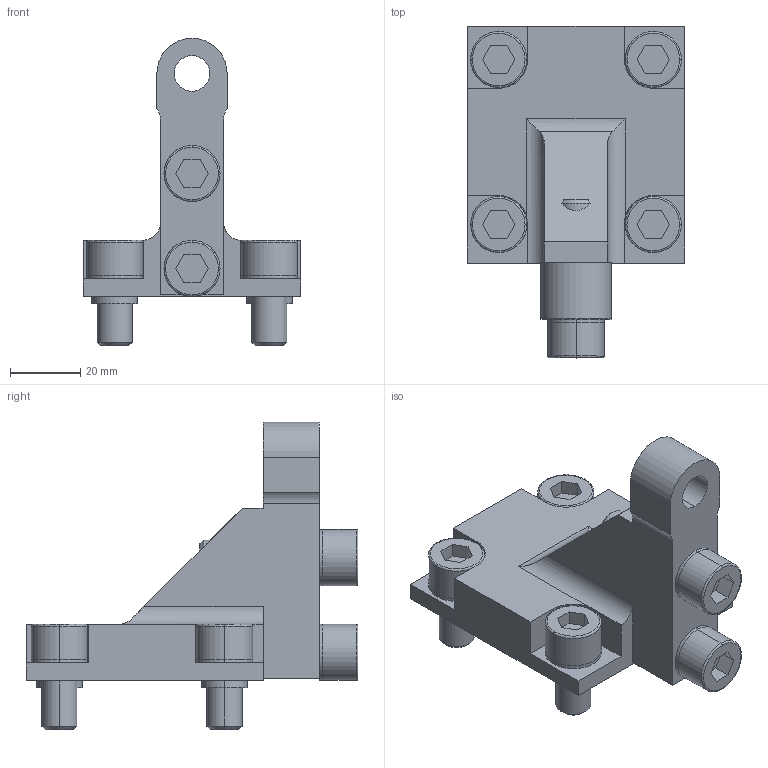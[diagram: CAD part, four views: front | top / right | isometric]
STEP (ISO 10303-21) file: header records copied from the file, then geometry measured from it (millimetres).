
FILE_DESCRIPTION (( 'STEP AP214' ), '1' );
FILE_NAME ('867.1-62-M12-E-NC.step', '2023-08-01T13:22:23', ( '' ), ( '' ), 'SwSTEP 2.0', 'SolidWorks 2022', '' );
FILE_SCHEMA (( 'AUTOMOTIVE_DESIGN' ));
Length unit declared in the file: millimetre
Products named in the file (1): 867.1-62-M12-E-NC
Bounding box: 62 x 94.5 x 87.5 mm (x, y, z)
Volume: 103279 mm3; surface area: 25595.9 mm2
Topology: 1 solids, 3 shells, 177 faces, 413 edges, 268 vertices
Faces by surface type: plane 95, cylinder 61, torus 12, cone 9
Entity records: 6554 total; most frequent: DIRECTION 912, CARTESIAN_POINT 890, ORIENTED_EDGE 826, EDGE_CURVE 413, AXIS2_PLACEMENT_3D 330, VERTEX_POINT 268, LINE 252, VECTOR 252
